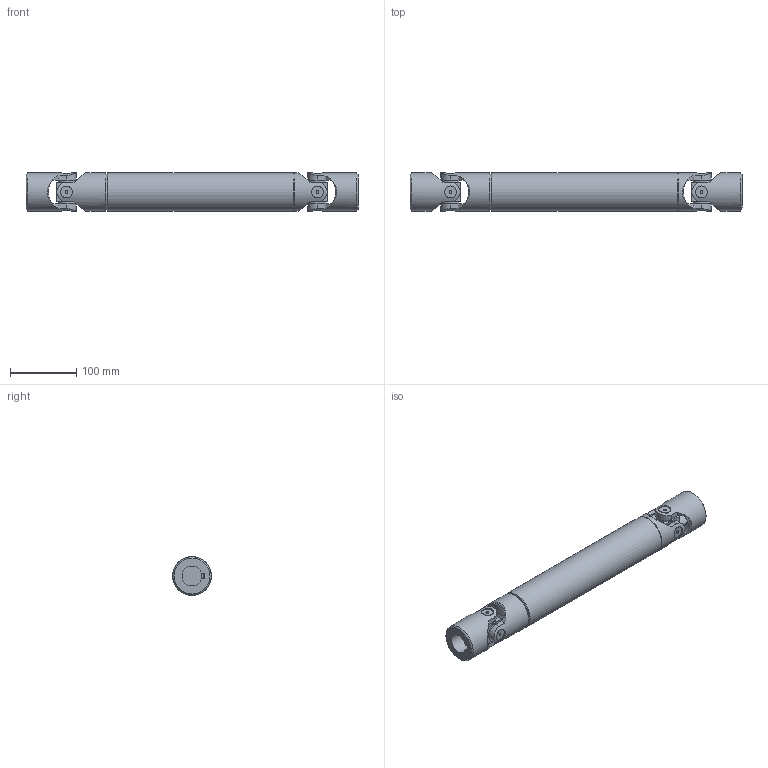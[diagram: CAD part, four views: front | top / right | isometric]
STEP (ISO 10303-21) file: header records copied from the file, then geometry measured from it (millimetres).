
FILE_DESCRIPTION(/* description */ (''),/* implementation_level */ '2;1');
FILE_NAME(/* name */ '\\SRV2016\societa\Stefano\Disegni 3D\00Catalogo 3D\03Trasmissioni standard GA\6GA26\6GA26_SG0A3026.stp',/* time_stamp */ '2022-02-07T13:18:18+01:00',/* author */ ('acquisti'),/* organization */ (''),/* preprocessor_version */ 'ST-DEVELOPER v15.6',/* originating_system */ 'Autodesk Inventor 2015',/* authorisation */ '');
FILE_SCHEMA (('AUTOMOTIVE_DESIGN { 1 0 10303 214 3 1 1 }'));
Length unit declared in the file: millimetre
Products named in the file (5): 6GA26 LAI; 6GA26 LCI; 6G MOC; 6G SFE; 6GA26_SG0A3026
Assembly tree (6 placements, depth 2):
  6GA26_SG0A3026
    6GA26 LAI
    6GA26 LCI
    6G MOC  x2
    6G SFE  x2
Bounding box: 500 x 58.5 x 58.5 mm (x, y, z)
Volume: 936025.1 mm3; surface area: 214733.1 mm2
Topology: 6 solids, 6 shells, 220 faces, 561 edges, 377 vertices
Faces by surface type: plane 114, cylinder 77, cone 25, torus 4
Full cylindrical faces by diameter (mm): 4 x8, 18 x8, 26 x8, 30 x1, 32 x2, 49 x1, 58 x4, 58.5 x1
Entity records: 5899 total; most frequent: CARTESIAN_POINT 1695, DIRECTION 847, ORIENTED_EDGE 832, EDGE_CURVE 416, AXIS2_PLACEMENT_3D 331, VERTEX_POINT 300, EDGE_LOOP 228, LINE 185
